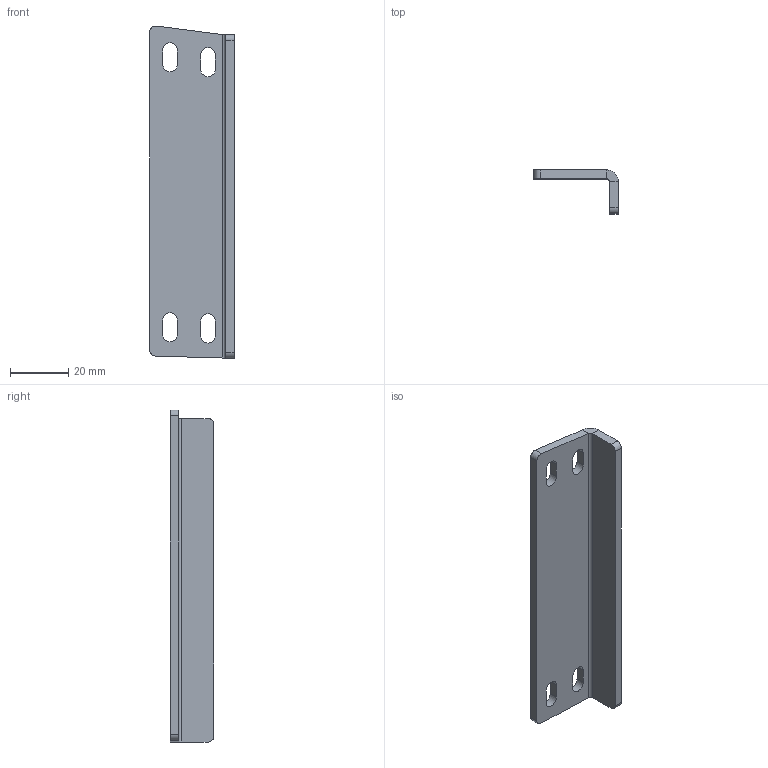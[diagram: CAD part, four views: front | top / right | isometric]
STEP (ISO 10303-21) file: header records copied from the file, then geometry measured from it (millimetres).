
FILE_DESCRIPTION((''),'2;1');
FILE_NAME('0000187249','2024-02-23T19:34:27',('Wyndorps'),(''),'CREO PARAMETRIC BY PTC INC, 2022484','CREO PARAMETRIC BY PTC INC, 2022484','');
FILE_SCHEMA(('CONFIG_CONTROL_DESIGN'));
Length unit declared in the file: millimetre
Products named in the file (1): 0000187249
Bounding box: 29 x 15 x 113.9 mm (x, y, z)
Volume: 12837 mm3; surface area: 9768.9 mm2
Topology: 1 solids, 1 shells, 34 faces, 88 edges, 56 vertices
Faces by surface type: plane 20, cylinder 14
Entity records: 1090 total; most frequent: DIRECTION 184, CARTESIAN_POINT 178, ORIENTED_EDGE 176, EDGE_CURVE 88, AXIS2_PLACEMENT_3D 62, VECTOR 60, LINE 60, VERTEX_POINT 56
